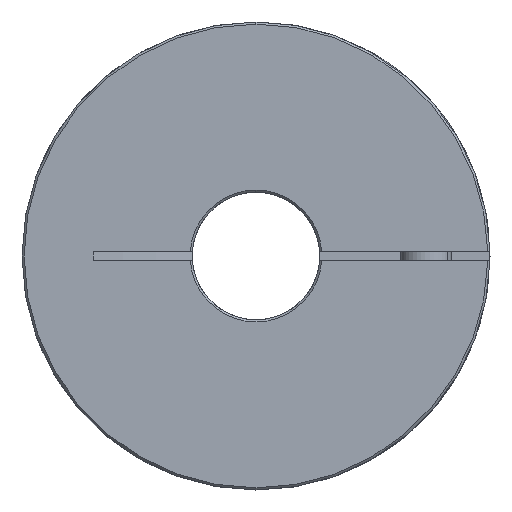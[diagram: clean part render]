
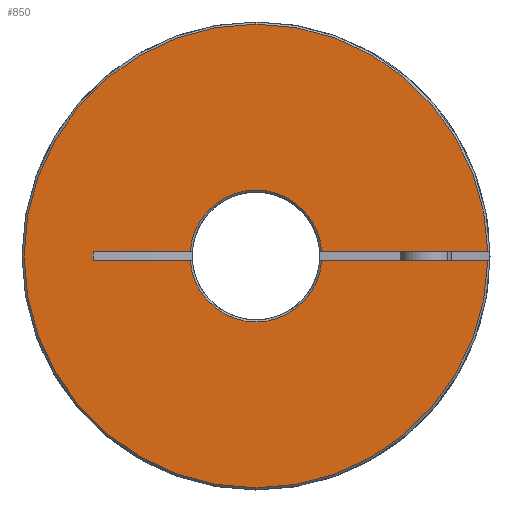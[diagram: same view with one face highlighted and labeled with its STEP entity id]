
A CAD part, left-side view. The second image highlights one B-rep face of the part: STEP entity #850.
In plain terms, the highlighted planar face has unit normal (-1, 0, 0).
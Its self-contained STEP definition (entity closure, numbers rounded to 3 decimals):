
#60 = VERTEX_POINT ( 'NONE', #1481 ) ;
#75 = VERTEX_POINT ( 'NONE', #1543 ) ;
#90 = EDGE_CURVE ( 'NONE', #717, #75, #1573, .T. ) ;
#118 = ORIENTED_EDGE ( 'NONE', *, *, #90, .T. ) ;
#147 = ORIENTED_EDGE ( 'NONE', *, *, #445, .T. ) ;
#173 = EDGE_CURVE ( 'NONE', #60, #2717, #2263, .T. ) ;
#187 = ORIENTED_EDGE ( 'NONE', *, *, #173, .T. ) ;
#252 = ORIENTED_EDGE ( 'NONE', *, *, #490, .T. ) ;
#253 = VERTEX_POINT ( 'NONE', #2833 ) ;
#270 = EDGE_CURVE ( 'NONE', #253, #75, #2964, .T. ) ;
#445 = EDGE_CURVE ( 'NONE', #2717, #4640, #4210, .T. ) ;
#486 = VERTEX_POINT ( 'NONE', #4391 ) ;
#490 = EDGE_CURVE ( 'NONE', #4640, #486, #4419, .T. ) ;
#541 = EDGE_CURVE ( 'NONE', #253, #2425, #1870, .T. ) ;
#556 = ORIENTED_EDGE ( 'NONE', *, *, #541, .T. ) ;
#599 = EDGE_CURVE ( 'NONE', #923, #60, #2444, .T. ) ;
#639 = VERTEX_POINT ( 'NONE', #2779 ) ;
#651 = ORIENTED_EDGE ( 'NONE', *, *, #270, .F. ) ;
#717 = VERTEX_POINT ( 'NONE', #3131 ) ;
#749 = EDGE_CURVE ( 'NONE', #717, #486, #3201, .T. ) ;
#766 = EDGE_CURVE ( 'NONE', #639, #923, #3316, .T. ) ;
#808 = EDGE_LOOP ( 'NONE', ( #2980, #1933, #826, #4310, #187, #147, #252, #1072, #118, #651, #556 ) ) ;
#826 = ORIENTED_EDGE ( 'NONE', *, *, #766, .T. ) ;
#850 = ADVANCED_FACE ( 'NONE', ( #3668 ), #3669, .F. ) ;
#923 = VERTEX_POINT ( 'NONE', #3994 ) ;
#1072 = ORIENTED_EDGE ( 'NONE', *, *, #749, .F. ) ;
#1481 = CARTESIAN_POINT ( 'NONE',  ( 0., -54.491, 1. ) ) ;
#1543 = CARTESIAN_POINT ( 'NONE',  ( 0., 15.468, -1. ) ) ;
#1573 = CIRCLE ( 'NONE', #1574, 15.5 ) ;
#1574 = AXIS2_PLACEMENT_3D ( 'NONE', #1575, #1576, #1577 ) ;
#1575 = CARTESIAN_POINT ( 'NONE',  ( 0., 0., 0. ) ) ;
#1576 = DIRECTION ( 'NONE',  ( 1., 0., 0. ) ) ;
#1577 = DIRECTION ( 'NONE',  ( 0., 0., -1. ) ) ;
#1831 = VERTEX_POINT ( 'NONE', #3730 ) ;
#1870 = LINE ( 'NONE', #1871, #1872 ) ;
#1871 = CARTESIAN_POINT ( 'NONE',  ( 0., 38.303, -1. ) ) ;
#1872 = VECTOR ( 'NONE', #1873, 1000. ) ;
#1873 = DIRECTION ( 'NONE',  ( 0., 0., 1. ) ) ;
#1933 = ORIENTED_EDGE ( 'NONE', *, *, #2927, .T. ) ;
#2263 = CIRCLE ( 'NONE', #2264, 54.5 ) ;
#2264 = AXIS2_PLACEMENT_3D ( 'NONE', #2268, #2269, #2270 ) ;
#2268 = CARTESIAN_POINT ( 'NONE',  ( 0., 0., 0. ) ) ;
#2269 = DIRECTION ( 'NONE',  ( -1., 0., 0. ) ) ;
#2270 = DIRECTION ( 'NONE',  ( 0., 0., -1. ) ) ;
#2425 = VERTEX_POINT ( 'NONE', #4195 ) ;
#2444 = LINE ( 'NONE', #2445, #2446 ) ;
#2445 = CARTESIAN_POINT ( 'NONE',  ( 0., 15., 1. ) ) ;
#2446 = VECTOR ( 'NONE', #2447, 1000. ) ;
#2447 = DIRECTION ( 'NONE',  ( 0., -1., 0. ) ) ;
#2632 = EDGE_CURVE ( 'NONE', #2425, #1831, #4280, .T. ) ;
#2717 = VERTEX_POINT ( 'NONE', #4308 ) ;
#2733 = CARTESIAN_POINT ( 'NONE',  ( 0., 0., -54.5 ) ) ;
#2779 = CARTESIAN_POINT ( 'NONE',  ( 0., 0., 15.5 ) ) ;
#2833 = CARTESIAN_POINT ( 'NONE',  ( 0., 38.303, -1. ) ) ;
#2927 = EDGE_CURVE ( 'NONE', #1831, #639, #4369, .T. ) ;
#2964 = LINE ( 'NONE', #2965, #2966 ) ;
#2965 = CARTESIAN_POINT ( 'NONE',  ( 0., 15., -1. ) ) ;
#2966 = VECTOR ( 'NONE', #2967, 1000. ) ;
#2967 = DIRECTION ( 'NONE',  ( 0., -1., 0. ) ) ;
#2980 = ORIENTED_EDGE ( 'NONE', *, *, #2632, .T. ) ;
#3131 = CARTESIAN_POINT ( 'NONE',  ( 0., -15.468, -1. ) ) ;
#3201 = LINE ( 'NONE', #3202, #3203 ) ;
#3202 = CARTESIAN_POINT ( 'NONE',  ( 0., 15., -1. ) ) ;
#3203 = VECTOR ( 'NONE', #3204, 1000. ) ;
#3204 = DIRECTION ( 'NONE',  ( 0., -1., 0. ) ) ;
#3316 = CIRCLE ( 'NONE', #3317, 15.5 ) ;
#3317 = AXIS2_PLACEMENT_3D ( 'NONE', #3318, #3319, #3320 ) ;
#3318 = CARTESIAN_POINT ( 'NONE',  ( 0., 0., 0. ) ) ;
#3319 = DIRECTION ( 'NONE',  ( 1., 0., 0. ) ) ;
#3320 = DIRECTION ( 'NONE',  ( 0., 0., -1. ) ) ;
#3668 = FACE_OUTER_BOUND ( 'NONE', #808, .T. ) ;
#3669 = PLANE ( 'NONE',  #3670 ) ;
#3670 = AXIS2_PLACEMENT_3D ( 'NONE', #3671, #3672, #3673 ) ;
#3671 = CARTESIAN_POINT ( 'NONE',  ( 0., 15., 0. ) ) ;
#3672 = DIRECTION ( 'NONE',  ( 1., 0., 0. ) ) ;
#3673 = DIRECTION ( 'NONE',  ( 0., 0., -1. ) ) ;
#3730 = CARTESIAN_POINT ( 'NONE',  ( 0., 15.468, 1. ) ) ;
#3994 = CARTESIAN_POINT ( 'NONE',  ( 0., -15.468, 1. ) ) ;
#4195 = CARTESIAN_POINT ( 'NONE',  ( 0., 38.303, 1. ) ) ;
#4210 = CIRCLE ( 'NONE', #4211, 54.5 ) ;
#4211 = AXIS2_PLACEMENT_3D ( 'NONE', #4212, #4213, #4214 ) ;
#4212 = CARTESIAN_POINT ( 'NONE',  ( 0., 0., 0. ) ) ;
#4213 = DIRECTION ( 'NONE',  ( -1., 0., 0. ) ) ;
#4214 = DIRECTION ( 'NONE',  ( 0., 0., -1. ) ) ;
#4280 = LINE ( 'NONE', #4281, #4282 ) ;
#4281 = CARTESIAN_POINT ( 'NONE',  ( 0., 15., 1. ) ) ;
#4282 = VECTOR ( 'NONE', #4283, 1000. ) ;
#4283 = DIRECTION ( 'NONE',  ( 0., -1., 0. ) ) ;
#4308 = CARTESIAN_POINT ( 'NONE',  ( 0., 0., 54.5 ) ) ;
#4310 = ORIENTED_EDGE ( 'NONE', *, *, #599, .T. ) ;
#4369 = CIRCLE ( 'NONE', #4370, 15.5 ) ;
#4370 = AXIS2_PLACEMENT_3D ( 'NONE', #4371, #4372, #4373 ) ;
#4371 = CARTESIAN_POINT ( 'NONE',  ( 0., 0., 0. ) ) ;
#4372 = DIRECTION ( 'NONE',  ( 1., 0., 0. ) ) ;
#4373 = DIRECTION ( 'NONE',  ( 0., 0., -1. ) ) ;
#4391 = CARTESIAN_POINT ( 'NONE',  ( 0., -54.491, -1. ) ) ;
#4419 = CIRCLE ( 'NONE', #4420, 54.5 ) ;
#4420 = AXIS2_PLACEMENT_3D ( 'NONE', #4421, #4422, #4423 ) ;
#4421 = CARTESIAN_POINT ( 'NONE',  ( 0., 0., 0. ) ) ;
#4422 = DIRECTION ( 'NONE',  ( -1., 0., 0. ) ) ;
#4423 = DIRECTION ( 'NONE',  ( 0., 0., -1. ) ) ;
#4640 = VERTEX_POINT ( 'NONE', #2733 ) ;
